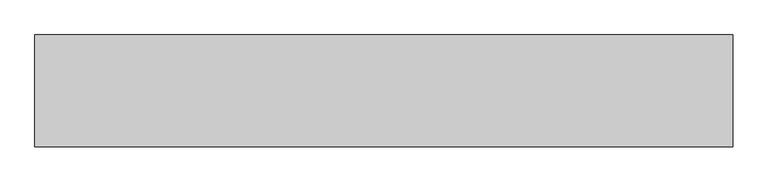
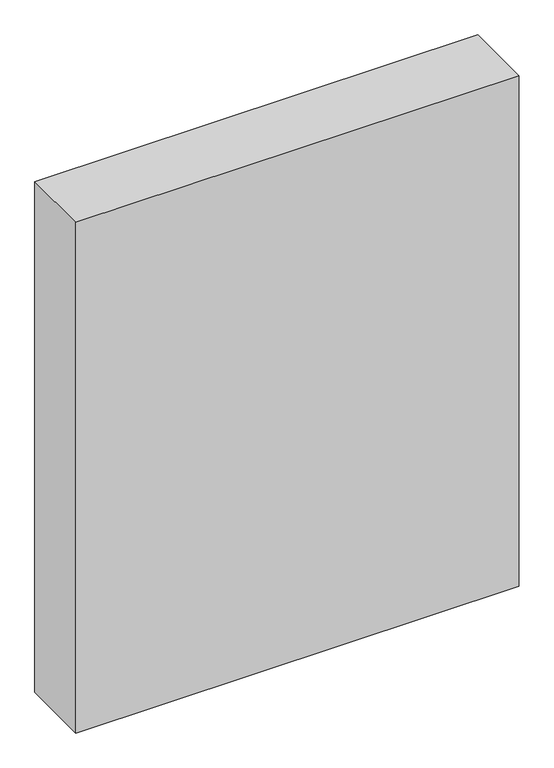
"""IFC4 building model written with IfcOpenShell, lengths in millimetres: proxy geometry."""

from ifc_helpers import new_model, si_unit, frame, origin, place, context, project, spatial, polyline, outline, extrude, source, transform, mapped, element, save


def generic_models_e537777a(model_context):
    return source(origin(), model_context, "Body", "SweptSolid", [
        extrude(outline(polyline([(19193.3735721, 80.0), (20193.3735721, 80.0), (20193.3735721, -80.0), (19193.3735721, -80.0), (19193.3735721, 80.0)])), frame((0.0, 0.0, 1433.5716536), z_axis=(0.0, 0.0, 1.0), x_axis=(1.0, 0.0, 0.0)), (0.0, 0.0, 1.0), 1217.8),
    ])


if __name__ == "__main__":
    model = new_model("IFC4")
    model_context = context("Model", 3, world=origin())
    ifc_project = project(units=[si_unit("LENGTHUNIT", "METRE", prefix="MILLI")], contexts=[model_context])
    site = spatial("IfcSite", under=ifc_project)
    building = spatial("IfcBuilding", under=site)
    placement = place(None, origin())
    generic_models_shape = generic_models_e537777a(model_context)
    element("IfcBuildingElementProxy", 1, Name="Generic Models", at=placement, inside=building, context=model_context, shape_type="MappedRepresentation", body=[
        mapped(generic_models_shape, transform((0.0, 0.0, 0.0), x_axis=(1.0, 0.0, 0.0), y_axis=(0.0, 1.0, 0.0), z_axis=(0.0, 0.0, 1.0))),
    ])
    save(model, "model.ifc")
